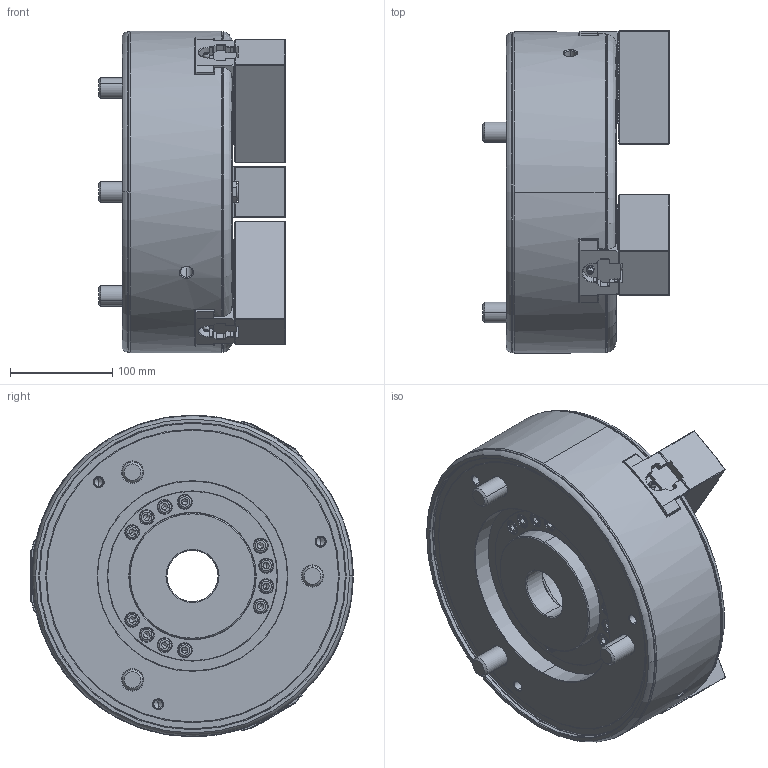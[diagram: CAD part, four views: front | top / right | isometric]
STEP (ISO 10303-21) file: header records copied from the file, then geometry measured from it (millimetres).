
FILE_DESCRIPTION (( 'STEP AP203' ), '1' );
FILE_NAME ('DEV-BR12-HUL.STEP', '2024-03-07T02:49:05', ( '' ), ( '' ), 'SwSTEP 2.0', 'SolidWorks 2022', '' );
FILE_SCHEMA (( 'CONFIG_CONTROL_DESIGN' ));
Length unit declared in the file: millimetre
Products named in the file (9): 61P318349-4 SB12N1 ソフトジョー_外観-ﾃﾞﾌｫﾙﾄ; Bアナツキ M20×110; Bアナツキ M16×35; BR12-Nishi08 Tナット-Plus_61P447364-2 BB212 Tナット-ﾃﾞﾌｫﾙﾄ; DEV-BR12-HUL; Part117^DEV-BR12-クミタテ; Bアナツキボタン M6×10_デフォルト; BR12-Nishi07 ドローナット_外観-ﾃﾞﾌｫﾙﾄ; 61P366784-2 BB212 カバー
Assembly tree (21 placements, depth 2):
  DEV-BR12-HUL
    BR12-Nishi07 ドローナット_外観-ﾃﾞﾌｫﾙﾄ
    61P318349-4 SB12N1 ソフトジョー_外観-ﾃﾞﾌｫﾙﾄ  x3
    BR12-Nishi08 Tナット-Plus_61P447364-2 BB212 Tナット-ﾃﾞﾌｫﾙﾄ  x3
    61P366784-2 BB212 カバー
    Bアナツキ M16×35  x6
    Bアナツキボタン M6×10_デフォルト  x3
    Bアナツキ M20×110  x3
    Part117^DEV-BR12-クミタテ
Bounding box: 183 x 315.95 x 315 mm (x, y, z)
Volume: 7578448.4 mm3; surface area: 639993.2 mm2
Topology: 21 solids, 30 shells, 4754 faces, 13098 edges, 8467 vertices
Faces by surface type: plane 3660, cylinder 461, cone 392, bspline 120, torus 107, sphere 14
Entity records: 114202 total; most frequent: CARTESIAN_POINT 25417, ORIENTED_EDGE 18888, DIRECTION 17055, EDGE_CURVE 9444, LINE 7571, VECTOR 7571, VERTEX_POINT 6136, AXIS2_PLACEMENT_3D 4742
